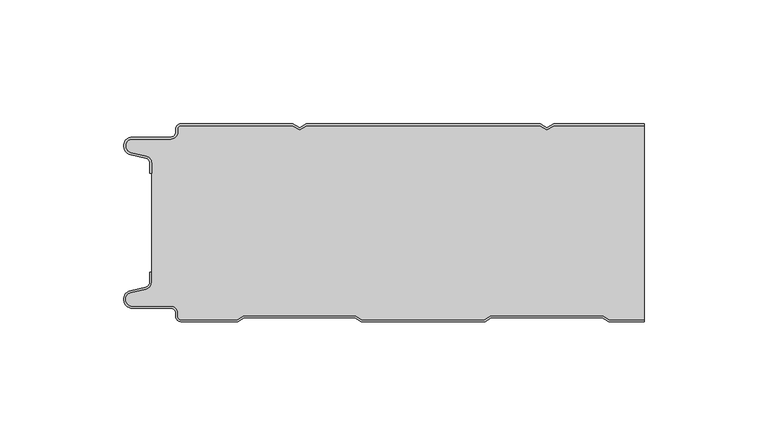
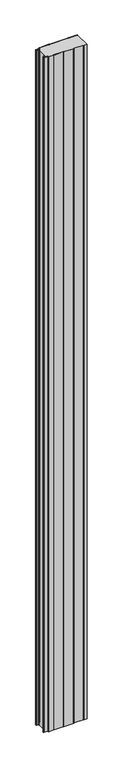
"""IFC4 building model written with IfcOpenShell, lengths in millimetres: plate geometry, Pantallas acústicas : ACH_Pantallas acústicas_Estándar_80mm."""

from ifc_helpers import new_model, si_unit, point, frame_2d, origin, origin_with_axes, place, context, project, spatial, polyline, circle_curve, trimmed, segment, composite_curve, outline, extrude, source, transform, mapped, element, save


def plate_dfdb3345(model_context):
    return source(origin(), model_context, "Body", "SweptSolid", [
        extrude(outline(composite_curve([segment(trimmed(circle_curve(frame_2d((-102.0, -15.878557)), 2.0), [point((-100.0, -15.878557))], [point((-101.5500978, -13.9298169))], True, "CARTESIAN"), True, "CONTINUOUS"), segment(polyline([(-101.5500978, -13.9298169), (-107.7098239, -12.507732)]), True, "CONTINUOUS"), segment(trimmed(circle_curve(frame_2d((-106.9, -9.0)), 3.6), [point((-107.7098239, -12.507732))], [point((-106.9, -5.4))], False, "CARTESIAN"), True, "CONTINUOUS"), segment(polyline([(-106.9, -5.4), (-91.4, -5.4)]), True, "CONTINUOUS"), segment(trimmed(circle_curve(frame_2d((-91.4, -3.4)), 2.0), [point((-91.4, -5.4))], [point((-89.4, -3.4))], True, "CARTESIAN"), True, "CONTINUOUS"), segment(polyline([(-89.4, -3.4), (-89.4, -2.0)]), True, "CONTINUOUS"), segment(trimmed(circle_curve(frame_2d((-87.4, -2.0)), 2.0), [point((-89.4, -2.0))], [point((-87.4, 0.0))], False, "CARTESIAN"), True, "CONTINUOUS"), segment(polyline([(-87.4, 0.0), (-42.0999995, 0.0), (-39.4, -1.5588455), (-36.7000005, 0.0), (57.9000005, 0.0), (60.6, -1.5588455), (63.2999995, 0.0), (100.0, 0.0), (100.0, -0.8), (63.5143588, -0.8), (60.6, -2.482606), (57.6856412, -0.8), (-36.4856412, -0.8), (-39.4, -2.482606), (-42.3143588, -0.8), (-87.4, -0.8)]), True, "CONTINUOUS"), segment(trimmed(circle_curve(frame_2d((-87.4, -2.0)), 1.2), [point((-87.4, -0.8))], [point((-88.6, -2.0))], True, "CARTESIAN"), True, "CONTINUOUS"), segment(polyline([(-88.6, -2.0), (-88.6, -3.4)]), True, "CONTINUOUS"), segment(trimmed(circle_curve(frame_2d((-91.4, -3.4)), 2.8), [point((-88.6, -3.4))], [point((-91.4, -6.2))], False, "CARTESIAN"), True, "CONTINUOUS"), segment(polyline([(-91.4, -6.2), (-106.9, -6.2)]), True, "CONTINUOUS"), segment(trimmed(circle_curve(frame_2d((-106.9, -9.0)), 2.8), [point((-106.9, -6.2))], [point((-107.529863, -11.7282362))], True, "CARTESIAN"), True, "CONTINUOUS"), segment(polyline([(-107.529863, -11.7282362), (-101.370137, -13.150321)]), True, "CONTINUOUS"), segment(trimmed(circle_curve(frame_2d((-102.0, -15.878557)), 2.8), [point((-101.370137, -13.150321))], [point((-99.2, -15.878557))], False, "CARTESIAN"), True, "CONTINUOUS"), segment(polyline([(-99.2, -15.878557), (-99.2, -20.0), (-100.0, -20.0), (-100.0, -15.878557)]), True, "CONTINUOUS")], self_intersect=False)), origin_with_axes(), (0.0, 0.0, 1.0), 3500.0),
        extrude(outline(composite_curve([segment(polyline([(-99.2, -64.121443), (-99.2, -15.8785573)]), True, "CONTINUOUS"), segment(trimmed(circle_curve(frame_2d((-102.0, -15.8785573)), 2.8), [point((-99.2, -15.8785573))], [point((-101.370137, -13.1503212))], True, "CARTESIAN"), True, "CONTINUOUS"), segment(polyline([(-101.370137, -13.1503212), (-107.5298631, -11.7282362)]), True, "CONTINUOUS"), segment(trimmed(circle_curve(frame_2d((-106.9, -9.0)), 2.8), [point((-107.5298631, -11.7282362))], [point((-106.9, -6.2))], False, "CARTESIAN"), True, "CONTINUOUS"), segment(polyline([(-106.9, -6.2), (-91.4000001, -6.2)]), True, "CONTINUOUS"), segment(trimmed(circle_curve(frame_2d((-91.4000001, -3.4)), 2.8), [point((-91.4000001, -6.2))], [point((-88.6000001, -3.4))], True, "CARTESIAN"), True, "CONTINUOUS"), segment(polyline([(-88.6000001, -3.4), (-88.6000001, -2.0)]), True, "CONTINUOUS"), segment(trimmed(circle_curve(frame_2d((-87.4000001, -2.0)), 1.2), [point((-88.6000001, -2.0))], [point((-87.4000001, -0.8))], False, "CARTESIAN"), True, "CONTINUOUS"), segment(polyline([(-87.4000001, -0.8), (-42.3143589, -0.8), (-39.4000001, -2.482606), (-36.4856412, -0.8), (57.6856411, -0.8), (60.5999999, -2.482606), (63.5143588, -0.8), (100.0, -0.8), (100.0, -79.2), (85.8105122, -79.2), (83.2124346, -77.7), (37.9837184, -77.7), (35.3856408, -79.2), (-14.1894878, -79.2), (-16.7875654, -77.7), (-62.0162816, -77.7), (-64.6143592, -79.2), (-87.4, -79.2)]), True, "CONTINUOUS"), segment(trimmed(circle_curve(frame_2d((-87.4, -78.0)), 1.2), [point((-87.4, -79.2))], [point((-88.6, -78.0))], False, "CARTESIAN"), True, "CONTINUOUS"), segment(polyline([(-88.6, -78.0), (-88.6, -76.5999998)]), True, "CONTINUOUS"), segment(trimmed(circle_curve(frame_2d((-91.4, -76.5999998)), 2.8), [point((-88.6, -76.5999998))], [point((-91.4, -73.7999998))], True, "CARTESIAN"), True, "CONTINUOUS"), segment(polyline([(-91.4, -73.7999998), (-106.9, -73.7999998)]), True, "CONTINUOUS"), segment(trimmed(circle_curve(frame_2d((-106.9, -71.0)), 2.7999998), [point((-106.9, -73.7999998))], [point((-107.529863, -68.271764))], False, "CARTESIAN"), True, "CONTINUOUS"), segment(polyline([(-107.529863, -68.271764), (-101.370137, -66.8496792)]), True, "CONTINUOUS"), segment(trimmed(circle_curve(frame_2d((-102.0, -64.121443)), 2.8), [point((-101.370137, -66.8496792))], [point((-99.2, -64.121443))], True, "CARTESIAN"), True, "CONTINUOUS")], self_intersect=False)), origin_with_axes(), (0.0, 0.0, 1.0), 3500.0),
        extrude(outline(composite_curve([segment(trimmed(circle_curve(frame_2d((-87.4, -78.0)), 2.0), [point((-87.4, -80.0))], [point((-89.4, -78.0))], False, "CARTESIAN"), True, "CONTINUOUS"), segment(polyline([(-89.4, -78.0), (-89.4, -76.6)]), True, "CONTINUOUS"), segment(trimmed(circle_curve(frame_2d((-91.4, -76.6)), 2.0), [point((-89.4, -76.6))], [point((-91.4, -74.6))], True, "CARTESIAN"), True, "CONTINUOUS"), segment(polyline([(-91.4, -74.6), (-106.9, -74.6)]), True, "CONTINUOUS"), segment(trimmed(circle_curve(frame_2d((-106.9, -71.0)), 3.6), [point((-106.9, -74.6))], [point((-107.7098239, -67.4922678))], False, "CARTESIAN"), True, "CONTINUOUS"), segment(polyline([(-107.7098239, -67.4922678), (-101.5500979, -66.070183)]), True, "CONTINUOUS"), segment(trimmed(circle_curve(frame_2d((-102.0, -64.121443)), 2.0), [point((-101.5500979, -66.070183))], [point((-100.0, -64.121443))], True, "CARTESIAN"), True, "CONTINUOUS"), segment(polyline([(-100.0, -64.121443), (-100.0, -60.0), (-99.2, -60.0), (-99.2, -64.121443)]), True, "CONTINUOUS"), segment(trimmed(circle_curve(frame_2d((-102.0, -64.121443)), 2.8), [point((-99.2, -64.121443))], [point((-101.370137, -66.8496792))], False, "CARTESIAN"), True, "CONTINUOUS"), segment(polyline([(-101.370137, -66.8496792), (-107.529863, -68.271764)]), True, "CONTINUOUS"), segment(trimmed(circle_curve(frame_2d((-106.9, -71.0)), 2.8), [point((-107.529863, -68.271764))], [point((-106.9, -73.8))], True, "CARTESIAN"), True, "CONTINUOUS"), segment(polyline([(-106.9, -73.8), (-91.4, -73.8)]), True, "CONTINUOUS"), segment(trimmed(circle_curve(frame_2d((-91.4, -76.6)), 2.8), [point((-91.4, -73.8))], [point((-88.6, -76.6))], False, "CARTESIAN"), True, "CONTINUOUS"), segment(polyline([(-88.6, -76.6), (-88.6, -78.0)]), True, "CONTINUOUS"), segment(trimmed(circle_curve(frame_2d((-87.4, -78.0)), 1.2), [point((-88.6, -78.0))], [point((-87.4, -79.2))], True, "CARTESIAN"), True, "CONTINUOUS"), segment(polyline([(-87.4, -79.2), (-64.6143592, -79.2), (-62.0162816, -77.7), (-16.7875654, -77.7), (-14.1894878, -79.2), (35.3856408, -79.2), (37.9837184, -77.7), (83.2124346, -77.7), (85.8105122, -79.2), (100.0, -79.2), (100.0, -80.0), (85.5961529, -80.0), (82.9980753, -78.5), (38.1980777, -78.5), (35.6000001, -80.0), (-14.4038471, -80.0), (-17.0019247, -78.5), (-61.8019223, -78.5), (-64.3999999, -80.0), (-87.4, -80.0)]), True, "CONTINUOUS")], self_intersect=False)), origin_with_axes(), (0.0, 0.0, 1.0), 3500.0),
    ])


if __name__ == "__main__":
    model = new_model("IFC4")
    model_context = context("Model", 3, world=origin())
    ifc_project = project(units=[si_unit("LENGTHUNIT", "METRE", prefix="MILLI")], contexts=[model_context])
    site = spatial("IfcSite", under=ifc_project)
    building = spatial("IfcBuilding", under=site)
    placement = place(None, origin())
    plate_shape = plate_dfdb3345(model_context)
    element("IfcPlate", 1, ObjectType="Pantallas acústicas : ACH_Pantallas acústicas_Estándar_80mm", at=placement, inside=building, context=model_context, shape_type="MappedRepresentation", body=[
        mapped(plate_shape, transform((0.0, 0.0, 0.0), x_axis=(1.0, 0.0, 0.0), y_axis=(0.0, 1.0, 0.0), z_axis=(0.0, 0.0, 1.0))),
    ])
    save(model, "model.ifc")
